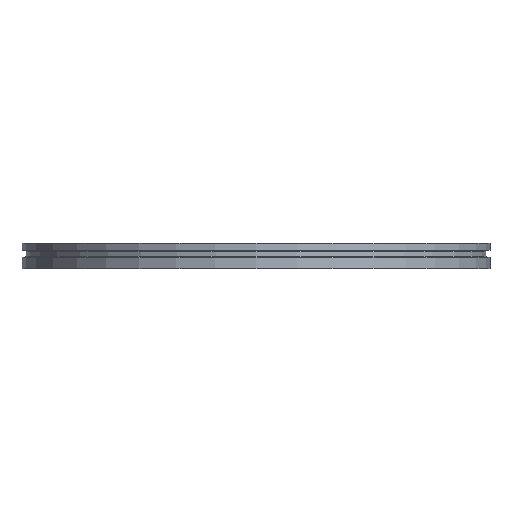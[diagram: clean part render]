
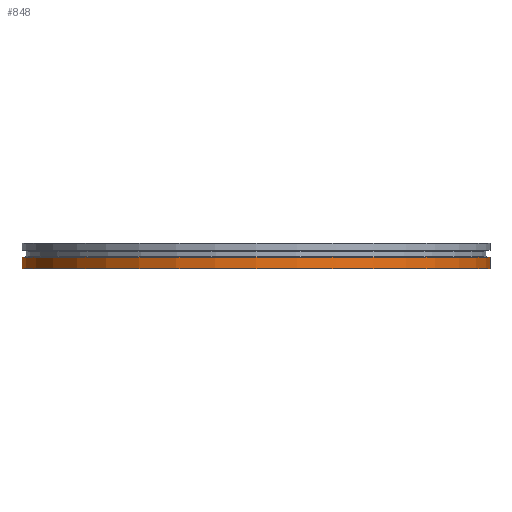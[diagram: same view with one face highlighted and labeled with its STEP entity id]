
A CAD part, front view. The second image highlights one B-rep face of the part: STEP entity #848.
In plain terms, the highlighted cylindrical face has radius 181.5 mm (diameter 363 mm), a partial arc.
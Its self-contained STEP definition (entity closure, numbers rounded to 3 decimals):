
#42 = DIRECTION ( 'NONE',  ( 0., 0., 1. ) ) ;
#80 = EDGE_CURVE ( 'NONE', #114, #1183, #382, .T. ) ;
#89 = DIRECTION ( 'NONE',  ( 1., 0., 0. ) ) ;
#114 = VERTEX_POINT ( 'NONE', #1579 ) ;
#216 = CARTESIAN_POINT ( 'NONE',  ( 0., 0., -20. ) ) ;
#258 = CIRCLE ( 'NONE', #1483, 181.5 ) ;
#275 = AXIS2_PLACEMENT_3D ( 'NONE', #1611, #843, #89 ) ;
#382 = LINE ( 'NONE', #627, #711 ) ;
#392 = DIRECTION ( 'NONE',  ( 0., 0., 1. ) ) ;
#474 = DIRECTION ( 'NONE',  ( 0., 0., 1. ) ) ;
#484 = ORIENTED_EDGE ( 'NONE', *, *, #1634, .T. ) ;
#627 = CARTESIAN_POINT ( 'NONE',  ( -181.5, 0., 3.578 ) ) ;
#682 = CARTESIAN_POINT ( 'NONE',  ( 0., 0., -11. ) ) ;
#711 = VECTOR ( 'NONE', #904, 1000. ) ;
#782 = DIRECTION ( 'NONE',  ( 1., 0., 0. ) ) ;
#783 = CARTESIAN_POINT ( 'NONE',  ( 181.5, 0., -20. ) ) ;
#789 = CARTESIAN_POINT ( 'NONE',  ( -181.5, 0., -11. ) ) ;
#799 = EDGE_CURVE ( 'NONE', #1505, #969, #983, .T. ) ;
#843 = DIRECTION ( 'NONE',  ( 0., 0., 1. ) ) ;
#848 = ADVANCED_FACE ( 'NONE', ( #1076 ), #1227, .T. ) ;
#904 = DIRECTION ( 'NONE',  ( 0., 0., 1. ) ) ;
#923 = ORIENTED_EDGE ( 'NONE', *, *, #80, .F. ) ;
#969 = VERTEX_POINT ( 'NONE', #1398 ) ;
#983 = LINE ( 'NONE', #1477, #1539 ) ;
#1076 = FACE_OUTER_BOUND ( 'NONE', #1315, .T. ) ;
#1183 = VERTEX_POINT ( 'NONE', #789 ) ;
#1227 = CYLINDRICAL_SURFACE ( 'NONE', #275, 181.5 ) ;
#1315 = EDGE_LOOP ( 'NONE', ( #923, #484, #1323, #1636 ) ) ;
#1323 = ORIENTED_EDGE ( 'NONE', *, *, #799, .T. ) ;
#1384 = CIRCLE ( 'NONE', #1664, 181.5 ) ;
#1398 = CARTESIAN_POINT ( 'NONE',  ( 181.5, 0., -11. ) ) ;
#1477 = CARTESIAN_POINT ( 'NONE',  ( 181.5, 0., 3.578 ) ) ;
#1483 = AXIS2_PLACEMENT_3D ( 'NONE', #682, #42, #1582 ) ;
#1505 = VERTEX_POINT ( 'NONE', #783 ) ;
#1535 = EDGE_CURVE ( 'NONE', #1183, #969, #258, .T. ) ;
#1539 = VECTOR ( 'NONE', #474, 1000. ) ;
#1579 = CARTESIAN_POINT ( 'NONE',  ( -181.5, 0., -20. ) ) ;
#1582 = DIRECTION ( 'NONE',  ( 1., 0., 0. ) ) ;
#1611 = CARTESIAN_POINT ( 'NONE',  ( 0., 0., 3.578 ) ) ;
#1634 = EDGE_CURVE ( 'NONE', #114, #1505, #1384, .T. ) ;
#1636 = ORIENTED_EDGE ( 'NONE', *, *, #1535, .F. ) ;
#1664 = AXIS2_PLACEMENT_3D ( 'NONE', #216, #392, #782 ) ;
